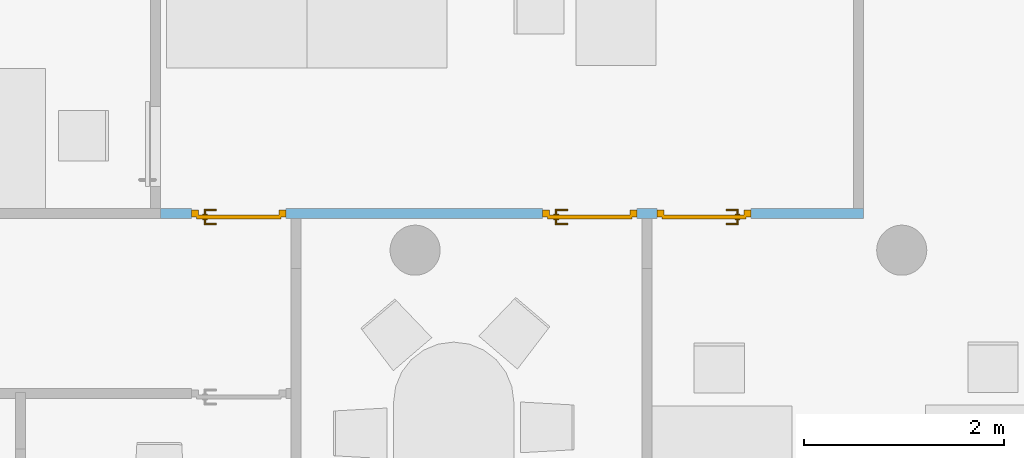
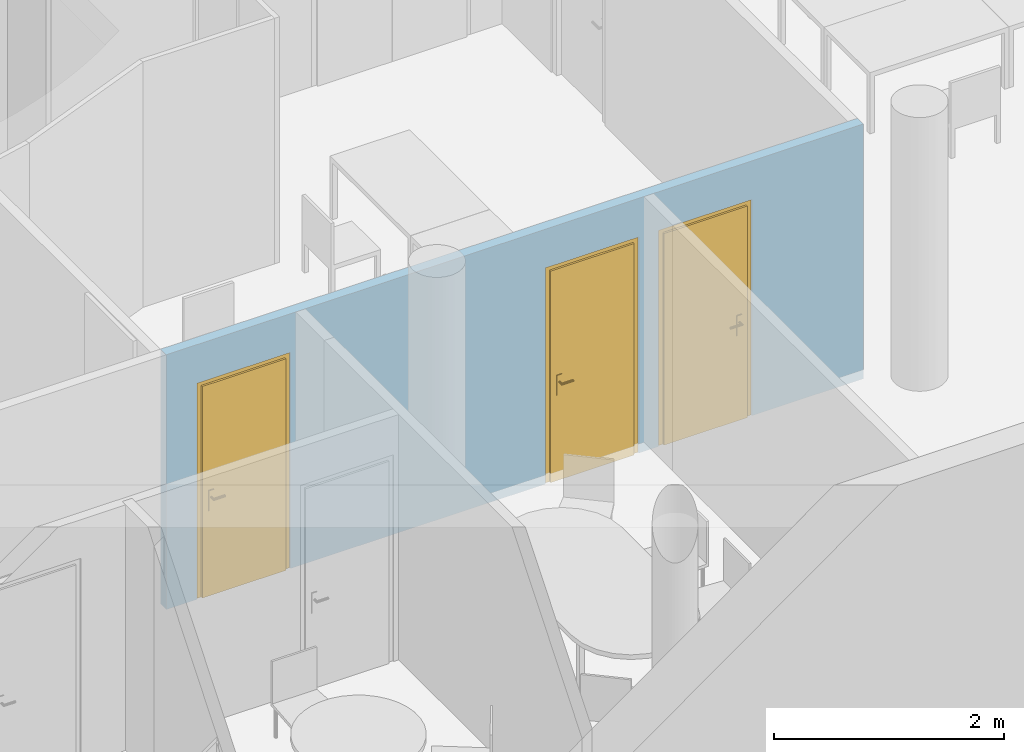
"""IFC4 building model written with IfcOpenShell, lengths in metres."""

from ifc_helpers import new_model, entity, si_unit, converted_unit, derived_unit, frame, frame_2d, origin, origin_with_axes, place, context, subcontext, project, spatial, polyline, rectangle, outline, extrude, faceted_brep, source, transform, mapped, material, layer, layer_set, layer_usage, element, fill, save


model = new_model("IFC4")

# Units and contexts
model_context = context("Model", 3, precision=1e-05, world=origin())
body_context = subcontext(model_context, "Body", "Model", "MODEL_VIEW")
ifc_project = project(units=[si_unit("LENGTHUNIT", "METRE"), si_unit("AREAUNIT", "SQUARE_METRE"), si_unit("VOLUMEUNIT", "CUBIC_METRE"), si_unit("MASSUNIT", "GRAM", prefix="KILO"), converted_unit("PLANEANGLEUNIT", "DEGREE", entity("IfcPlaneAngleMeasure", 0.0174532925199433), si_unit("PLANEANGLEUNIT", "RADIAN"), dimensions=[0, 0, 0, 0, 0, 0, 0]), derived_unit("THERMALTRANSMITTANCEUNIT", [(si_unit("POWERUNIT", "WATT"), 1), (si_unit("THERMODYNAMICTEMPERATUREUNIT", "KELVIN"), -1), (si_unit("LENGTHUNIT", "METRE"), -2)]), derived_unit("VOLUMETRICFLOWRATEUNIT", [(si_unit("LENGTHUNIT", "METRE"), 3), (converted_unit("TIMEUNIT", "hour", entity("IfcTimeMeasure", 3600.0), si_unit("TIMEUNIT", "SECOND"), dimensions=[0, 0, 1, 0, 0, 0, 0]), -1), (si_unit("LENGTHUNIT", "METRE"), -1)])], contexts=[model_context])

# Building, storeys
building_placement = place(None, origin())
building = spatial("IfcBuilding", under=ifc_project, at=building_placement, Name="HABITATGE PLURIFAMILIAR", CompositionType="ELEMENT")
storey_1_placement = place(building_placement, frame((0.0, 0.0, 9.26)))
storey_1 = spatial("IfcBuildingStorey", under=building, at=storey_1_placement, Name="PLANTA SEGONA", CompositionType="ELEMENT", Elevation=9.26)
storey_2_placement = place(storey_1_placement, frame((0.0, 0.0, 6.25)))
storey_2 = spatial("IfcBuildingStorey", under=storey_1, at=storey_2_placement, Name="NOU", CompositionType="PARTIAL")

# Wall, openings, doors
ifc_material = material()
ifc_layer = layer(ifc_material, 0.1)
ifc_layer_set = layer_set([ifc_layer])
ifc_layer_usage = layer_usage(ifc_layer_set, "AXIS2", "POSITIVE", 0.0)
wall_placement = place(storey_2_placement, frame((413.597122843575, 18.1154678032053, -6.35)))
wall = element("IfcWall", 1, at=wall_placement, inside=storey_2, material=ifc_layer_usage, Name="Mampara P2", context=body_context, shape_type="SweptSolid", body=[
    extrude(rectangle(XDim=7.01266221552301, YDim=0.1, at=frame_2d((3.50633110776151, 0.05), x_axis=(1.0, 0.0))), origin_with_axes(), (0.0, 0.0, 1.0), 2.71),
])
opening_1_placement = place(wall_placement, frame((1.25, 0.1, 0.0), z_axis=(0.0, -1.0, 0.0), x_axis=(0.0, 0.0, 1.0)))
opening_1 = element("IfcOpeningElement", 2, at=opening_1_placement, cuts=wall, Name="Vano puerta", ObjectType="Opening", context=body_context, shape_type="SweptSolid", body=[
    extrude(outline(polyline([(2.3, 0.94), (2.3, 0.0), (0.0, 0.0), (0.0, 0.94), (2.3, 0.94)])), origin_with_axes(), (0.0, 0.0, 1.0), 0.1),
])
opening_2_placement = place(wall_placement, frame((5.89280027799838, 0.1, 0.0), z_axis=(0.0, -1.0, 0.0), x_axis=(0.0, 0.0, 1.0)))
opening_2 = element("IfcOpeningElement", 3, at=opening_2_placement, cuts=wall, Name="Vano puerta", ObjectType="Opening", context=body_context, shape_type="SweptSolid", body=[
    extrude(outline(polyline([(2.3, 0.94), (2.3, 0.0), (0.0, 0.0), (0.0, 0.94), (2.3, 0.94)])), origin_with_axes(), (0.0, 0.0, 1.0), 0.1),
])
opening_3_placement = place(wall_placement, frame((4.75280027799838, 0.1, 0.0), z_axis=(0.0, -1.0, 0.0), x_axis=(0.0, 0.0, 1.0)))
opening_3 = element("IfcOpeningElement", 4, at=opening_3_placement, cuts=wall, Name="Vano puerta", ObjectType="Opening", context=body_context, shape_type="SweptSolid", body=[
    extrude(outline(polyline([(2.3, 0.94), (2.3, 0.0), (0.0, 0.0), (0.0, 0.94), (2.3, 0.94)])), origin_with_axes(), (0.0, 0.0, 1.0), 0.1),
])
shared_shape_1 = source(origin_with_axes(), body_context, "Body", "Brep", [
    faceted_brep([(0.94, 0.07, 2.3), (0.87, 0.07, 2.3), (0.87, 0.07, 0.0), (0.94, 0.07, 0.0), (0.94, 0.0, 0.0), (0.87, 0.0, 0.0), (0.87, 0.0, 2.3), (0.94, 0.0, 2.3)], [[[0, 1, 2, 3]], [[4, 5, 6, 7]], [[3, 4, 7, 0]], [[2, 5, 4, 3]], [[1, 6, 5, 2]], [[0, 7, 6, 1]]], orient=[[False], [False], [False], [False], [False], [False]]),
    faceted_brep([(0.07, 0.07, 2.3), (0.0, 0.07, 2.3), (0.0, 0.07, 0.0), (0.07, 0.07, 0.0), (0.07, 0.0, 0.0), (0.0, 0.0, 0.0), (0.0, 0.0, 2.3), (0.07, 0.0, 2.3)], [[[0, 1, 2, 3]], [[4, 5, 6, 7]], [[3, 4, 7, 0]], [[2, 5, 4, 3]], [[1, 6, 5, 2]], [[0, 7, 6, 1]]], orient=[[False], [False], [False], [False], [False], [False]]),
    faceted_brep([(0.87, 0.07, 2.3), (0.07, 0.07, 2.3), (0.07, 0.07, 2.23), (0.87, 0.07, 2.23), (0.87, 0.0, 2.23), (0.07, 0.0, 2.23), (0.07, 0.0, 2.3), (0.87, 0.0, 2.3)], [[[0, 1, 2, 3]], [[4, 5, 6, 7]], [[3, 4, 7, 0]], [[2, 5, 4, 3]], [[1, 6, 5, 2]], [[0, 7, 6, 1]]], orient=[[False], [False], [False], [False], [False], [False]]),
    faceted_brep([(0.89, 0.09, 2.25), (0.05, 0.09, 2.25), (0.05, 0.09, 0.0), (0.89, 0.09, 0.0), (0.89, 0.05, 0.0), (0.05, 0.05, 0.0), (0.05, 0.05, 2.25), (0.89, 0.05, 2.25)], [[[0, 1, 2, 3]], [[4, 5, 6, 7]], [[3, 4, 7, 0]], [[2, 5, 4, 3]], [[1, 6, 5, 2]], [[0, 7, 6, 1]]], orient=[[False], [False], [False], [False], [False], [False]]),
    faceted_brep([(0.83, 0.05, 1.125), (0.78, 0.05, 1.125), (0.78, 0.05, 0.91), (0.83, 0.05, 0.91), (0.83, 0.04, 0.91), (0.78, 0.04, 0.91), (0.78, 0.04, 1.125), (0.83, 0.04, 1.125)], [[[0, 1, 2, 3]], [[4, 5, 6, 7]], [[3, 4, 7, 0]], [[2, 5, 4, 3]], [[1, 6, 5, 2]], [[0, 7, 6, 1]]], orient=[[False], [False], [False], [False], [False], [False]]),
    faceted_brep([(0.805, 0.04, 1.06), (0.8, 0.04, 1.05866025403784), (0.796339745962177, 0.04, 1.055), (0.795, 0.04, 1.05), (0.796339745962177, 0.04, 1.045), (0.8, 0.04, 1.04133974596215), (0.805, 0.04, 1.04), (0.81, 0.04, 1.04133974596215), (0.813660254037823, 0.04, 1.045), (0.815, 0.04, 1.05), (0.813660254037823, 0.04, 1.055), (0.81, 0.04, 1.05866025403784), (0.81, -0.005, 1.05866025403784), (0.805, 0.0, 1.06), (0.813660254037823, -0.00866025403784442, 1.055), (0.815, -0.01, 1.05), (0.813660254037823, -0.00866025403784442, 1.045), (0.81, -0.005, 1.04133974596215), (0.805, 0.0, 1.04), (0.8, 0.005, 1.04133974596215), (0.796339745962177, 0.00866025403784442, 1.045), (0.795, 0.01, 1.05), (0.796339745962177, 0.00866025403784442, 1.055), (0.8, 0.005, 1.05866025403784), (0.69, 0.0, 1.06), (0.69, -0.005, 1.05866025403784), (0.69, -0.00866025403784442, 1.055), (0.69, -0.01, 1.05), (0.69, -0.00866025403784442, 1.045), (0.69, -0.005, 1.04133974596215), (0.69, 0.0, 1.04), (0.69, 0.005, 1.04133974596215), (0.69, 0.00866025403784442, 1.045), (0.69, 0.01, 1.05), (0.69, 0.00866025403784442, 1.055), (0.69, 0.005, 1.05866025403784)], [[[0, 1, 2, 3, 4, 5, 6, 7, 8, 9, 10, 11]], [[0, 11, 12, 13]], [[11, 10, 14, 12]], [[10, 9, 15, 14]], [[9, 8, 16, 15]], [[8, 7, 17, 16]], [[7, 6, 18, 17]], [[6, 5, 19, 18]], [[5, 4, 20, 19]], [[4, 3, 21, 20]], [[3, 2, 22, 21]], [[2, 1, 23, 22]], [[1, 0, 13, 23]], [[24, 25, 26, 27, 28, 29, 30, 31, 32, 33, 34, 35]], [[13, 12, 25, 24]], [[12, 14, 26, 25]], [[14, 15, 27, 26]], [[15, 16, 28, 27]], [[16, 17, 29, 28]], [[17, 18, 30, 29]], [[18, 19, 31, 30]], [[19, 20, 32, 31]], [[20, 21, 33, 32]], [[21, 22, 34, 33]], [[22, 23, 35, 34]], [[23, 13, 24, 35]]], orient=[[False], [False], [False], [False], [False], [False], [False], [False], [False], [False], [False], [False], [False], [False], [False], [False], [False], [False], [False], [False], [False], [False], [False], [False], [False], [False]]),
    faceted_brep([(0.83, 0.09, 1.125), (0.83, 0.09, 0.91), (0.78, 0.09, 0.91), (0.78, 0.09, 1.125), (0.83, 0.1, 0.91), (0.83, 0.1, 1.125), (0.78, 0.1, 1.125), (0.78, 0.1, 0.91)], [[[0, 1, 2, 3]], [[4, 5, 6, 7]], [[1, 0, 5, 4]], [[2, 1, 4, 7]], [[3, 2, 7, 6]], [[0, 3, 6, 5]]], orient=[[False], [False], [False], [False], [False], [False]]),
    faceted_brep([(0.805, 0.1, 1.06), (0.81, 0.1, 1.05866025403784), (0.813660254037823, 0.1, 1.055), (0.815, 0.1, 1.05), (0.813660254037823, 0.1, 1.045), (0.81, 0.1, 1.04133974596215), (0.805, 0.1, 1.04), (0.8, 0.1, 1.04133974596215), (0.796339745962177, 0.1, 1.045), (0.795, 0.1, 1.05), (0.796339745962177, 0.1, 1.055), (0.8, 0.1, 1.05866025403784), (0.805, 0.14, 1.06), (0.81, 0.145, 1.05866025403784), (0.813660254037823, 0.148660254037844, 1.055), (0.815, 0.15, 1.05), (0.813660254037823, 0.148660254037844, 1.045), (0.81, 0.145, 1.04133974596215), (0.805, 0.14, 1.04), (0.8, 0.135, 1.04133974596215), (0.796339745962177, 0.131339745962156, 1.045), (0.795, 0.13, 1.05), (0.796339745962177, 0.131339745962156, 1.055), (0.8, 0.135, 1.05866025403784), (0.69, 0.14, 1.06), (0.69, 0.135, 1.05866025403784), (0.69, 0.131339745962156, 1.055), (0.69, 0.13, 1.05), (0.69, 0.131339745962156, 1.045), (0.69, 0.135, 1.04133974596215), (0.69, 0.14, 1.04), (0.69, 0.145, 1.04133974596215), (0.69, 0.148660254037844, 1.045), (0.69, 0.15, 1.05), (0.69, 0.148660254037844, 1.055), (0.69, 0.145, 1.05866025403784)], [[[0, 1, 2, 3, 4, 5, 6, 7, 8, 9, 10, 11]], [[0, 12, 13, 1]], [[1, 13, 14, 2]], [[2, 14, 15, 3]], [[3, 15, 16, 4]], [[4, 16, 17, 5]], [[5, 17, 18, 6]], [[6, 18, 19, 7]], [[7, 19, 20, 8]], [[8, 20, 21, 9]], [[9, 21, 22, 10]], [[10, 22, 23, 11]], [[11, 23, 12, 0]], [[24, 25, 26, 27, 28, 29, 30, 31, 32, 33, 34, 35]], [[12, 24, 35, 13]], [[13, 35, 34, 14]], [[14, 34, 33, 15]], [[15, 33, 32, 16]], [[16, 32, 31, 17]], [[17, 31, 30, 18]], [[18, 30, 29, 19]], [[19, 29, 28, 20]], [[20, 28, 27, 21]], [[21, 27, 26, 22]], [[22, 26, 25, 23]], [[23, 25, 24, 12]]], orient=[[False], [False], [False], [False], [False], [False], [False], [False], [False], [False], [False], [False], [False], [False], [False], [False], [False], [False], [False], [False], [False], [False], [False], [False], [False], [False]]),
])
door_1_placement = place(opening_1_placement, frame((0.0, 0.0, 0.015), z_axis=(1.0, 0.0, 0.0), x_axis=(0.0, 1.0, 0.0)))
door_1 = element("IfcDoor", 5, at=door_1_placement, inside=storey_2, Name="Porta P2", OperationType="USERDEFINED", OverallHeight=2.3, OverallWidth=0.94, PredefinedType="DOOR", context=body_context, shape_type="MappedRepresentation", body=[
    mapped(shared_shape_1, transform((0.0, 0.0, 0.0), x_axis=(1.0, 0.0, 0.0), y_axis=(0.0, 1.0, 0.0), z_axis=(0.0, 0.0, 1.0), scale=1.0)),
])
fill(opening_1, door_1)
shared_shape_2 = source(origin_with_axes(), body_context, "Body", "Brep", [
    faceted_brep([(0.0, 0.07, 2.3), (0.0, 0.07, 0.0), (0.07, 0.07, 0.0), (0.07, 0.07, 2.3), (0.0, 0.0, 0.0), (0.0, 0.0, 2.3), (0.07, 0.0, 2.3), (0.07, 0.0, 0.0)], [[[0, 1, 2, 3]], [[4, 5, 6, 7]], [[1, 0, 5, 4]], [[2, 1, 4, 7]], [[3, 2, 7, 6]], [[0, 3, 6, 5]]], orient=[[False], [False], [False], [False], [False], [False]]),
    faceted_brep([(0.87, 0.07, 2.3), (0.87, 0.07, 0.0), (0.94, 0.07, 0.0), (0.94, 0.07, 2.3), (0.87, 0.0, 0.0), (0.87, 0.0, 2.3), (0.94, 0.0, 2.3), (0.94, 0.0, 0.0)], [[[0, 1, 2, 3]], [[4, 5, 6, 7]], [[1, 0, 5, 4]], [[2, 1, 4, 7]], [[3, 2, 7, 6]], [[0, 3, 6, 5]]], orient=[[False], [False], [False], [False], [False], [False]]),
    faceted_brep([(0.07, 0.07, 2.3), (0.07, 0.07, 2.23), (0.87, 0.07, 2.23), (0.87, 0.07, 2.3), (0.07, 0.0, 2.23), (0.07, 0.0, 2.3), (0.87, 0.0, 2.3), (0.87, 0.0, 2.23)], [[[0, 1, 2, 3]], [[4, 5, 6, 7]], [[1, 0, 5, 4]], [[2, 1, 4, 7]], [[3, 2, 7, 6]], [[0, 3, 6, 5]]], orient=[[False], [False], [False], [False], [False], [False]]),
    faceted_brep([(0.05, 0.09, 2.25), (0.05, 0.09, 0.0), (0.89, 0.09, 0.0), (0.89, 0.09, 2.25), (0.05, 0.05, 0.0), (0.05, 0.05, 2.25), (0.89, 0.05, 2.25), (0.89, 0.05, 0.0)], [[[0, 1, 2, 3]], [[4, 5, 6, 7]], [[1, 0, 5, 4]], [[2, 1, 4, 7]], [[3, 2, 7, 6]], [[0, 3, 6, 5]]], orient=[[False], [False], [False], [False], [False], [False]]),
    faceted_brep([(0.11, 0.05, 1.125), (0.11, 0.05, 0.91), (0.16, 0.05, 0.91), (0.16, 0.05, 1.125), (0.11, 0.04, 0.91), (0.11, 0.04, 1.125), (0.16, 0.04, 1.125), (0.16, 0.04, 0.91)], [[[0, 1, 2, 3]], [[4, 5, 6, 7]], [[1, 0, 5, 4]], [[2, 1, 4, 7]], [[3, 2, 7, 6]], [[0, 3, 6, 5]]], orient=[[False], [False], [False], [False], [False], [False]]),
    faceted_brep([(0.135, 0.04, 1.06), (0.13, 0.04, 1.05866025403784), (0.126339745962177, 0.04, 1.055), (0.125, 0.04, 1.05), (0.126339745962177, 0.04, 1.045), (0.13, 0.04, 1.04133974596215), (0.135, 0.04, 1.04), (0.14, 0.04, 1.04133974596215), (0.143660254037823, 0.04, 1.045), (0.145, 0.04, 1.05), (0.143660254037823, 0.04, 1.055), (0.14, 0.04, 1.05866025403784), (0.135, 0.0, 1.06), (0.13, -0.005, 1.05866025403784), (0.126339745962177, -0.00866025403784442, 1.055), (0.125, -0.01, 1.05), (0.126339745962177, -0.00866025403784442, 1.045), (0.13, -0.005, 1.04133974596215), (0.135, 0.0, 1.04), (0.14, 0.005, 1.04133974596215), (0.143660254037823, 0.00866025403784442, 1.045), (0.145, 0.01, 1.05), (0.143660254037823, 0.00866025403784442, 1.055), (0.14, 0.005, 1.05866025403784), (0.25, 0.0, 1.06), (0.25, 0.005, 1.05866025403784), (0.25, 0.00866025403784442, 1.055), (0.25, 0.01, 1.05), (0.25, 0.00866025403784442, 1.045), (0.25, 0.005, 1.04133974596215), (0.25, 0.0, 1.04), (0.25, -0.005, 1.04133974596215), (0.25, -0.00866025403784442, 1.045), (0.25, -0.01, 1.05), (0.25, -0.00866025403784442, 1.055), (0.25, -0.005, 1.05866025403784)], [[[0, 1, 2, 3, 4, 5, 6, 7, 8, 9, 10, 11]], [[0, 12, 13, 1]], [[1, 13, 14, 2]], [[2, 14, 15, 3]], [[3, 15, 16, 4]], [[4, 16, 17, 5]], [[5, 17, 18, 6]], [[6, 18, 19, 7]], [[7, 19, 20, 8]], [[8, 20, 21, 9]], [[9, 21, 22, 10]], [[10, 22, 23, 11]], [[11, 23, 12, 0]], [[24, 25, 26, 27, 28, 29, 30, 31, 32, 33, 34, 35]], [[12, 24, 35, 13]], [[13, 35, 34, 14]], [[14, 34, 33, 15]], [[15, 33, 32, 16]], [[16, 32, 31, 17]], [[17, 31, 30, 18]], [[18, 30, 29, 19]], [[19, 29, 28, 20]], [[20, 28, 27, 21]], [[21, 27, 26, 22]], [[22, 26, 25, 23]], [[23, 25, 24, 12]]], orient=[[False], [False], [False], [False], [False], [False], [False], [False], [False], [False], [False], [False], [False], [False], [False], [False], [False], [False], [False], [False], [False], [False], [False], [False], [False], [False]]),
    faceted_brep([(0.11, 0.09, 1.125), (0.16, 0.09, 1.125), (0.16, 0.09, 0.91), (0.11, 0.09, 0.91), (0.11, 0.1, 0.91), (0.16, 0.1, 0.91), (0.16, 0.1, 1.125), (0.11, 0.1, 1.125)], [[[0, 1, 2, 3]], [[4, 5, 6, 7]], [[3, 4, 7, 0]], [[2, 5, 4, 3]], [[1, 6, 5, 2]], [[0, 7, 6, 1]]], orient=[[False], [False], [False], [False], [False], [False]]),
    faceted_brep([(0.135, 0.1, 1.06), (0.14, 0.1, 1.05866025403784), (0.143660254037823, 0.1, 1.055), (0.145, 0.1, 1.05), (0.143660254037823, 0.1, 1.045), (0.14, 0.1, 1.04133974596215), (0.135, 0.1, 1.04), (0.13, 0.1, 1.04133974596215), (0.126339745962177, 0.1, 1.045), (0.125, 0.1, 1.05), (0.126339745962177, 0.1, 1.055), (0.13, 0.1, 1.05866025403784), (0.13, 0.145, 1.05866025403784), (0.135, 0.14, 1.06), (0.126339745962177, 0.148660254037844, 1.055), (0.125, 0.15, 1.05), (0.126339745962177, 0.148660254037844, 1.045), (0.13, 0.145, 1.04133974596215), (0.135, 0.14, 1.04), (0.14, 0.135, 1.04133974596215), (0.143660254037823, 0.131339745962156, 1.045), (0.145, 0.13, 1.05), (0.143660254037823, 0.131339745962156, 1.055), (0.14, 0.135, 1.05866025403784), (0.25, 0.14, 1.06), (0.25, 0.145, 1.05866025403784), (0.25, 0.148660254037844, 1.055), (0.25, 0.15, 1.05), (0.25, 0.148660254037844, 1.045), (0.25, 0.145, 1.04133974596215), (0.25, 0.14, 1.04), (0.25, 0.135, 1.04133974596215), (0.25, 0.131339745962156, 1.045), (0.25, 0.13, 1.05), (0.25, 0.131339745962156, 1.055), (0.25, 0.135, 1.05866025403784)], [[[0, 1, 2, 3, 4, 5, 6, 7, 8, 9, 10, 11]], [[0, 11, 12, 13]], [[11, 10, 14, 12]], [[10, 9, 15, 14]], [[9, 8, 16, 15]], [[8, 7, 17, 16]], [[7, 6, 18, 17]], [[6, 5, 19, 18]], [[5, 4, 20, 19]], [[4, 3, 21, 20]], [[3, 2, 22, 21]], [[2, 1, 23, 22]], [[1, 0, 13, 23]], [[24, 25, 26, 27, 28, 29, 30, 31, 32, 33, 34, 35]], [[13, 12, 25, 24]], [[12, 14, 26, 25]], [[14, 15, 27, 26]], [[15, 16, 28, 27]], [[16, 17, 29, 28]], [[17, 18, 30, 29]], [[18, 19, 31, 30]], [[19, 20, 32, 31]], [[20, 21, 33, 32]], [[21, 22, 34, 33]], [[22, 23, 35, 34]], [[23, 13, 24, 35]]], orient=[[False], [False], [False], [False], [False], [False], [False], [False], [False], [False], [False], [False], [False], [False], [False], [False], [False], [False], [False], [False], [False], [False], [False], [False], [False], [False]]),
])
door_2_placement = place(opening_2_placement, frame((0.0, 0.0, 0.015), z_axis=(1.0, 0.0, 0.0), x_axis=(0.0, 1.0, 0.0)))
door_2 = element("IfcDoor", 6, at=door_2_placement, inside=storey_2, Name="Porta P2", OperationType="USERDEFINED", OverallHeight=2.3, OverallWidth=0.94, PredefinedType="DOOR", context=body_context, shape_type="MappedRepresentation", body=[
    mapped(shared_shape_2, transform((0.0, 0.0, 0.0), x_axis=(1.0, 0.0, 0.0), y_axis=(0.0, 1.0, 0.0), z_axis=(0.0, 0.0, 1.0), scale=1.0)),
])
fill(opening_2, door_2)
shared_shape_3 = source(origin_with_axes(), body_context, "Body", "Brep", [
    faceted_brep([(0.94, 0.07, 2.3), (0.87, 0.07, 2.3), (0.87, 0.07, 0.0), (0.94, 0.07, 0.0), (0.94, 0.0, 0.0), (0.87, 0.0, 0.0), (0.87, 0.0, 2.3), (0.94, 0.0, 2.3)], [[[0, 1, 2, 3]], [[4, 5, 6, 7]], [[3, 4, 7, 0]], [[2, 5, 4, 3]], [[1, 6, 5, 2]], [[0, 7, 6, 1]]], orient=[[False], [False], [False], [False], [False], [False]]),
    faceted_brep([(0.07, 0.07, 2.3), (0.0, 0.07, 2.3), (0.0, 0.07, 0.0), (0.07, 0.07, 0.0), (0.07, 0.0, 0.0), (0.0, 0.0, 0.0), (0.0, 0.0, 2.3), (0.07, 0.0, 2.3)], [[[0, 1, 2, 3]], [[4, 5, 6, 7]], [[3, 4, 7, 0]], [[2, 5, 4, 3]], [[1, 6, 5, 2]], [[0, 7, 6, 1]]], orient=[[False], [False], [False], [False], [False], [False]]),
    faceted_brep([(0.87, 0.07, 2.3), (0.07, 0.07, 2.3), (0.07, 0.07, 2.23), (0.87, 0.07, 2.23), (0.87, 0.0, 2.23), (0.07, 0.0, 2.23), (0.07, 0.0, 2.3), (0.87, 0.0, 2.3)], [[[0, 1, 2, 3]], [[4, 5, 6, 7]], [[3, 4, 7, 0]], [[2, 5, 4, 3]], [[1, 6, 5, 2]], [[0, 7, 6, 1]]], orient=[[False], [False], [False], [False], [False], [False]]),
    faceted_brep([(0.89, 0.09, 2.25), (0.05, 0.09, 2.25), (0.05, 0.09, 0.0), (0.89, 0.09, 0.0), (0.89, 0.05, 0.0), (0.05, 0.05, 0.0), (0.05, 0.05, 2.25), (0.89, 0.05, 2.25)], [[[0, 1, 2, 3]], [[4, 5, 6, 7]], [[3, 4, 7, 0]], [[2, 5, 4, 3]], [[1, 6, 5, 2]], [[0, 7, 6, 1]]], orient=[[False], [False], [False], [False], [False], [False]]),
    faceted_brep([(0.83, 0.05, 1.125), (0.78, 0.05, 1.125), (0.78, 0.05, 0.91), (0.83, 0.05, 0.91), (0.83, 0.04, 0.91), (0.78, 0.04, 0.91), (0.78, 0.04, 1.125), (0.83, 0.04, 1.125)], [[[0, 1, 2, 3]], [[4, 5, 6, 7]], [[3, 4, 7, 0]], [[2, 5, 4, 3]], [[1, 6, 5, 2]], [[0, 7, 6, 1]]], orient=[[False], [False], [False], [False], [False], [False]]),
    faceted_brep([(0.805, 0.04, 1.06), (0.8, 0.04, 1.05866025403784), (0.796339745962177, 0.04, 1.055), (0.795, 0.04, 1.05), (0.796339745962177, 0.04, 1.045), (0.8, 0.04, 1.04133974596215), (0.805, 0.04, 1.04), (0.81, 0.04, 1.04133974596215), (0.813660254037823, 0.04, 1.045), (0.815, 0.04, 1.05), (0.813660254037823, 0.04, 1.055), (0.81, 0.04, 1.05866025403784), (0.81, -0.005, 1.05866025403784), (0.805, 0.0, 1.06), (0.813660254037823, -0.00866025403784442, 1.055), (0.815, -0.01, 1.05), (0.813660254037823, -0.00866025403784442, 1.045), (0.81, -0.005, 1.04133974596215), (0.805, 0.0, 1.04), (0.8, 0.005, 1.04133974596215), (0.796339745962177, 0.00866025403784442, 1.045), (0.795, 0.01, 1.05), (0.796339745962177, 0.00866025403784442, 1.055), (0.8, 0.005, 1.05866025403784), (0.69, 0.0, 1.06), (0.69, -0.005, 1.05866025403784), (0.69, -0.00866025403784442, 1.055), (0.69, -0.01, 1.05), (0.69, -0.00866025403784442, 1.045), (0.69, -0.005, 1.04133974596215), (0.69, 0.0, 1.04), (0.69, 0.005, 1.04133974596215), (0.69, 0.00866025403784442, 1.045), (0.69, 0.01, 1.05), (0.69, 0.00866025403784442, 1.055), (0.69, 0.005, 1.05866025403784)], [[[0, 1, 2, 3, 4, 5, 6, 7, 8, 9, 10, 11]], [[0, 11, 12, 13]], [[11, 10, 14, 12]], [[10, 9, 15, 14]], [[9, 8, 16, 15]], [[8, 7, 17, 16]], [[7, 6, 18, 17]], [[6, 5, 19, 18]], [[5, 4, 20, 19]], [[4, 3, 21, 20]], [[3, 2, 22, 21]], [[2, 1, 23, 22]], [[1, 0, 13, 23]], [[24, 25, 26, 27, 28, 29, 30, 31, 32, 33, 34, 35]], [[13, 12, 25, 24]], [[12, 14, 26, 25]], [[14, 15, 27, 26]], [[15, 16, 28, 27]], [[16, 17, 29, 28]], [[17, 18, 30, 29]], [[18, 19, 31, 30]], [[19, 20, 32, 31]], [[20, 21, 33, 32]], [[21, 22, 34, 33]], [[22, 23, 35, 34]], [[23, 13, 24, 35]]], orient=[[False], [False], [False], [False], [False], [False], [False], [False], [False], [False], [False], [False], [False], [False], [False], [False], [False], [False], [False], [False], [False], [False], [False], [False], [False], [False]]),
    faceted_brep([(0.83, 0.09, 1.125), (0.83, 0.09, 0.91), (0.78, 0.09, 0.91), (0.78, 0.09, 1.125), (0.83, 0.1, 0.91), (0.83, 0.1, 1.125), (0.78, 0.1, 1.125), (0.78, 0.1, 0.91)], [[[0, 1, 2, 3]], [[4, 5, 6, 7]], [[1, 0, 5, 4]], [[2, 1, 4, 7]], [[3, 2, 7, 6]], [[0, 3, 6, 5]]], orient=[[False], [False], [False], [False], [False], [False]]),
    faceted_brep([(0.805, 0.1, 1.06), (0.81, 0.1, 1.05866025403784), (0.813660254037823, 0.1, 1.055), (0.815, 0.1, 1.05), (0.813660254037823, 0.1, 1.045), (0.81, 0.1, 1.04133974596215), (0.805, 0.1, 1.04), (0.8, 0.1, 1.04133974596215), (0.796339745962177, 0.1, 1.045), (0.795, 0.1, 1.05), (0.796339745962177, 0.1, 1.055), (0.8, 0.1, 1.05866025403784), (0.805, 0.14, 1.06), (0.81, 0.145, 1.05866025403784), (0.813660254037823, 0.148660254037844, 1.055), (0.815, 0.15, 1.05), (0.813660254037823, 0.148660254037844, 1.045), (0.81, 0.145, 1.04133974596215), (0.805, 0.14, 1.04), (0.8, 0.135, 1.04133974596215), (0.796339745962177, 0.131339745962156, 1.045), (0.795, 0.13, 1.05), (0.796339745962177, 0.131339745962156, 1.055), (0.8, 0.135, 1.05866025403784), (0.69, 0.14, 1.06), (0.69, 0.135, 1.05866025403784), (0.69, 0.131339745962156, 1.055), (0.69, 0.13, 1.05), (0.69, 0.131339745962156, 1.045), (0.69, 0.135, 1.04133974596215), (0.69, 0.14, 1.04), (0.69, 0.145, 1.04133974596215), (0.69, 0.148660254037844, 1.045), (0.69, 0.15, 1.05), (0.69, 0.148660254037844, 1.055), (0.69, 0.145, 1.05866025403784)], [[[0, 1, 2, 3, 4, 5, 6, 7, 8, 9, 10, 11]], [[0, 12, 13, 1]], [[1, 13, 14, 2]], [[2, 14, 15, 3]], [[3, 15, 16, 4]], [[4, 16, 17, 5]], [[5, 17, 18, 6]], [[6, 18, 19, 7]], [[7, 19, 20, 8]], [[8, 20, 21, 9]], [[9, 21, 22, 10]], [[10, 22, 23, 11]], [[11, 23, 12, 0]], [[24, 25, 26, 27, 28, 29, 30, 31, 32, 33, 34, 35]], [[12, 24, 35, 13]], [[13, 35, 34, 14]], [[14, 34, 33, 15]], [[15, 33, 32, 16]], [[16, 32, 31, 17]], [[17, 31, 30, 18]], [[18, 30, 29, 19]], [[19, 29, 28, 20]], [[20, 28, 27, 21]], [[21, 27, 26, 22]], [[22, 26, 25, 23]], [[23, 25, 24, 12]]], orient=[[False], [False], [False], [False], [False], [False], [False], [False], [False], [False], [False], [False], [False], [False], [False], [False], [False], [False], [False], [False], [False], [False], [False], [False], [False], [False]]),
])
door_3_placement = place(opening_3_placement, frame((0.0, 0.0, 0.015), z_axis=(1.0, 0.0, 0.0), x_axis=(0.0, 1.0, 0.0)))
door_3 = element("IfcDoor", 7, at=door_3_placement, inside=storey_2, Name="Porta P2", OperationType="USERDEFINED", OverallHeight=2.3, OverallWidth=0.94, PredefinedType="DOOR", context=body_context, shape_type="MappedRepresentation", body=[
    mapped(shared_shape_3, transform((0.0, 0.0, 0.0), x_axis=(1.0, 0.0, 0.0), y_axis=(0.0, 1.0, 0.0), z_axis=(0.0, 0.0, 1.0), scale=1.0)),
])
fill(opening_3, door_3)

save(model, "model.ifc")
